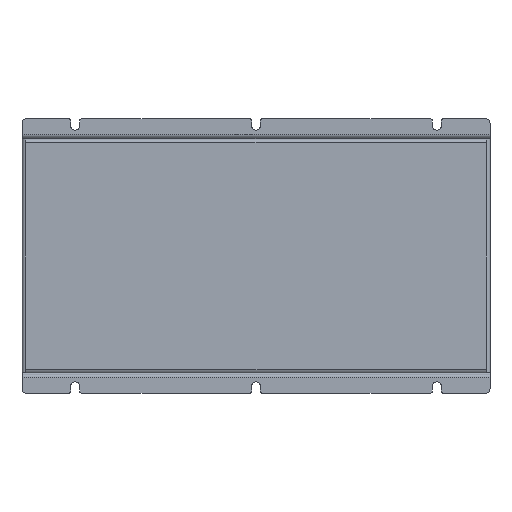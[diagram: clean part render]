
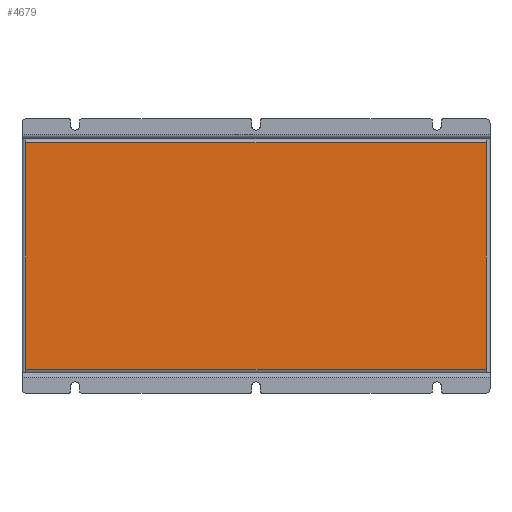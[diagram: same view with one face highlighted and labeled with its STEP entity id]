
A CAD part, front view. The second image highlights one B-rep face of the part: STEP entity #4679.
In plain terms, the highlighted planar face has unit normal (0, -1, 0).
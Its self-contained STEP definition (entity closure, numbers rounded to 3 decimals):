
#47 = EDGE_LOOP ( 'NONE', ( #355, #7780, #4239, #2331 ) ) ;
#282 = EDGE_CURVE ( 'NONE', #7144, #6405, #1791, .T. ) ;
#355 = ORIENTED_EDGE ( 'NONE', *, *, #7869, .T. ) ;
#397 = LINE ( 'NONE', #7626, #3637 ) ;
#555 = DIRECTION ( 'NONE',  ( 0., 0., 1. ) ) ;
#729 = DIRECTION ( 'NONE',  ( 0., 0., -1. ) ) ;
#806 = AXIS2_PLACEMENT_3D ( 'NONE', #5020, #4423, #555 ) ;
#1579 = VECTOR ( 'NONE', #729, 1000. ) ;
#1791 = LINE ( 'NONE', #6490, #1579 ) ;
#2331 = ORIENTED_EDGE ( 'NONE', *, *, #282, .T. ) ;
#2930 = CARTESIAN_POINT ( 'NONE',  ( -108.263, 0., 53.263 ) ) ;
#3108 = CARTESIAN_POINT ( 'NONE',  ( 108.263, 0., -53.263 ) ) ;
#3235 = VECTOR ( 'NONE', #7764, 1000. ) ;
#3589 = CARTESIAN_POINT ( 'NONE',  ( -108.263, 0., -53.263 ) ) ;
#3637 = VECTOR ( 'NONE', #8281, 1000. ) ;
#3779 = VERTEX_POINT ( 'NONE', #3108 ) ;
#4239 = ORIENTED_EDGE ( 'NONE', *, *, #5469, .T. ) ;
#4423 = DIRECTION ( 'NONE',  ( 0., 1., 0. ) ) ;
#4679 = ADVANCED_FACE ( 'NONE', ( #6685 ), #8300, .F. ) ;
#4772 = VECTOR ( 'NONE', #6120, 1000. ) ;
#4948 = LINE ( 'NONE', #5145, #3235 ) ;
#5020 = CARTESIAN_POINT ( 'NONE',  ( -110., 0., 55. ) ) ;
#5145 = CARTESIAN_POINT ( 'NONE',  ( -108.263, 0., -53.263 ) ) ;
#5469 = EDGE_CURVE ( 'NONE', #6004, #7144, #397, .T. ) ;
#6004 = VERTEX_POINT ( 'NONE', #8159 ) ;
#6120 = DIRECTION ( 'NONE',  ( 0., 0., -1. ) ) ;
#6405 = VERTEX_POINT ( 'NONE', #3589 ) ;
#6490 = CARTESIAN_POINT ( 'NONE',  ( -108.263, 0., 55. ) ) ;
#6685 = FACE_OUTER_BOUND ( 'NONE', #47, .T. ) ;
#7119 = EDGE_CURVE ( 'NONE', #6004, #3779, #8015, .T. ) ;
#7144 = VERTEX_POINT ( 'NONE', #2930 ) ;
#7426 = CARTESIAN_POINT ( 'NONE',  ( 108.263, 0., 55. ) ) ;
#7626 = CARTESIAN_POINT ( 'NONE',  ( 108.263, 0., 53.263 ) ) ;
#7764 = DIRECTION ( 'NONE',  ( 1., 0., 0. ) ) ;
#7780 = ORIENTED_EDGE ( 'NONE', *, *, #7119, .F. ) ;
#7869 = EDGE_CURVE ( 'NONE', #6405, #3779, #4948, .T. ) ;
#8015 = LINE ( 'NONE', #7426, #4772 ) ;
#8159 = CARTESIAN_POINT ( 'NONE',  ( 108.263, 0., 53.263 ) ) ;
#8281 = DIRECTION ( 'NONE',  ( -1., 0., 0. ) ) ;
#8300 = PLANE ( 'NONE',  #806 ) ;
